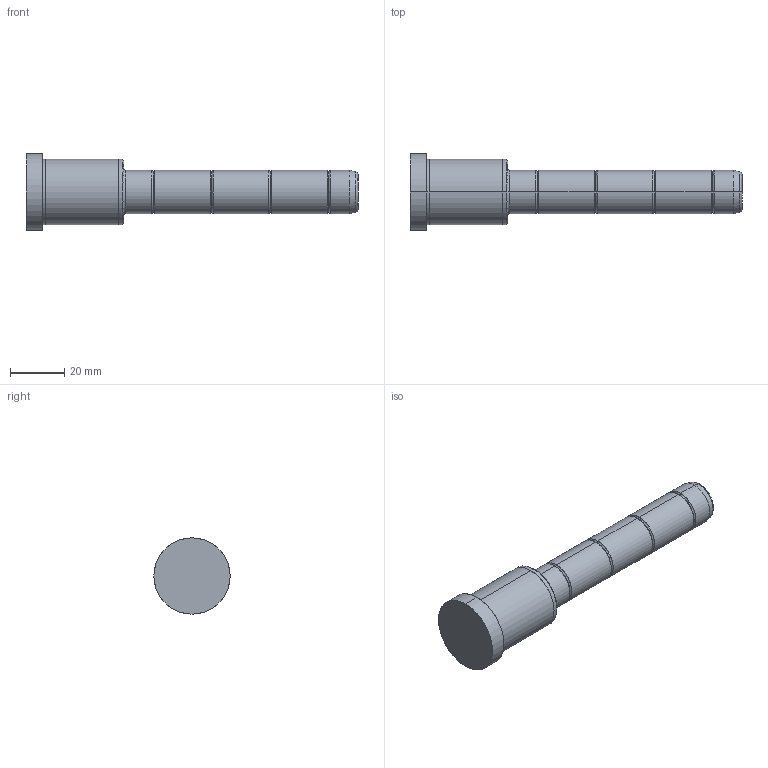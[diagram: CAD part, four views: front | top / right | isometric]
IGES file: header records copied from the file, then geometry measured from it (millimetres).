
Start section: SolidWorks IGES file using analytic representation for surfaces
Global section: file name: C:\Documents and Settings\kalite-mail\Desktop\IGS\D02\16\D02 - 16x36x86.IGS; native system: SolidWorks 2008; preprocessor: SolidWorks 2008; author: kalite-mail; date: 080616.142132; units: millimetre
Bounding box: 122 x 28 x 28 mm (x, y, z)
Surface area: 8365 mm2 (no closed solid volume)
Topology: 0 solids, 0 shells, 48 faces, 552 edges, 552 vertices
Faces by surface type: bspline 26, revolution 22
